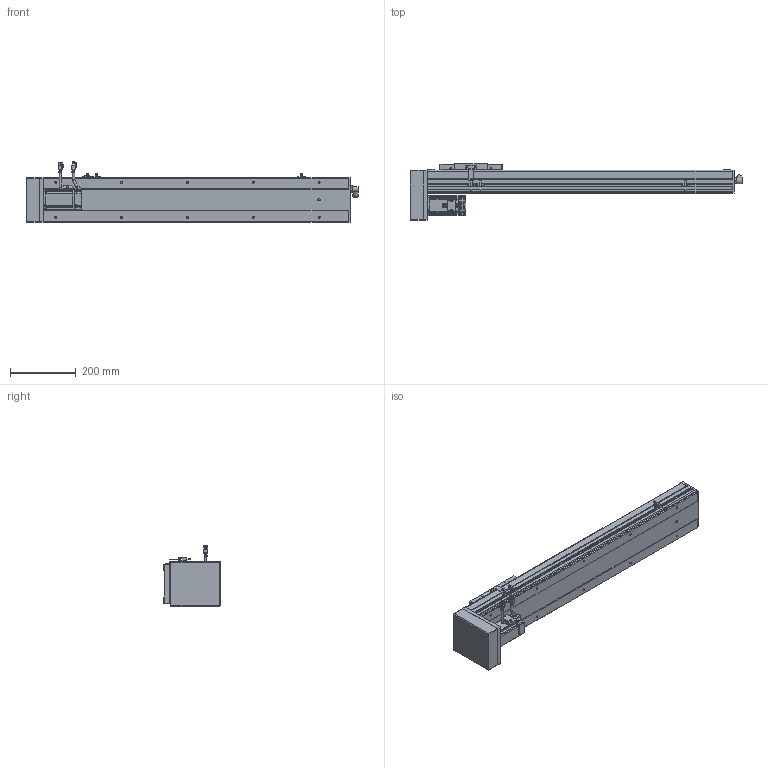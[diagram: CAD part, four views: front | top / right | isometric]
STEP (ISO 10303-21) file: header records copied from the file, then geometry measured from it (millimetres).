
FILE_DESCRIPTION(/* description */ ('STEP AP214'),/* implementation_level */ '2;1');
FILE_NAME(/* name */ 'PSC140-L05-S650-BM-P40-C1-N(0-P)',/* time_stamp */ '2022-06-13T03:21:04+02:00',/* author */ ('License CC BY-ND 4.0'),/* organization */ ('CADENAS'),/* preprocessor_version */ 'ST-DEVELOPER v18.102',/* originating_system */ 'PARTsolutions',/* authorisation */ ' ');
FILE_SCHEMA (('AUTOMOTIVE_DESIGN {1 0 10303 214 3 1 1}'));
Length unit declared in the file: millimetre
Products named in the file (11): PSC140-L05-S650-BM-P40-C1-N(0-P); P40-s2; P40-c2; P40-s1; P40-c1; P40-p1; PSC140-BM-body2; PSC140-sensor; PSC140-BM-SLIDER; PSC140-S650-BM-P40-C1-P_BODY1; PSC140-L05-S650-BM-P40-C1-N(0-P)_dummy
Assembly tree (12 placements, depth 2):
  PSC140-L05-S650-BM-P40-C1-N(0-P)
    P40-s2
    P40-c2
    P40-s1
    P40-c1
    P40-p1
    PSC140-BM-body2
    PSC140-sensor  x3
    PSC140-BM-SLIDER
    PSC140-S650-BM-P40-C1-P_BODY1
    PSC140-L05-S650-BM-P40-C1-N(0-P)_dummy
Bounding box: 1008 x 171.5 x 182.48 mm (x, y, z)
Volume: 10665337.3 mm3; surface area: 638384.4 mm2
Topology: 11 solids, 11 shells, 1232 faces, 3185 edges, 2108 vertices
Faces by surface type: plane 860, cylinder 315, cone 38, torus 19
Full cylindrical faces by diameter (mm): 1 x8, 2.6 x10, 2.8 x3, 3.3 x8, 4.5 x12, 4.6 x3, 4.917 x14, 5 x4, 5.5 x8, 6 x11, 7 x10, 9 x2, 10 x1, 11 x1, 12 x1, 13.74 x1, 14 x1, 16.4 x2, 16.5 x1, 36 x1, 50 x2
Entity records: 34152 total; most frequent: CARTESIAN_POINT 5966, DIRECTION 5741, ORIENTED_EDGE 5550, EDGE_CURVE 2775, LINE 2105, VECTOR 2105, VERTEX_POINT 1928, AXIS2_PLACEMENT_3D 1818
